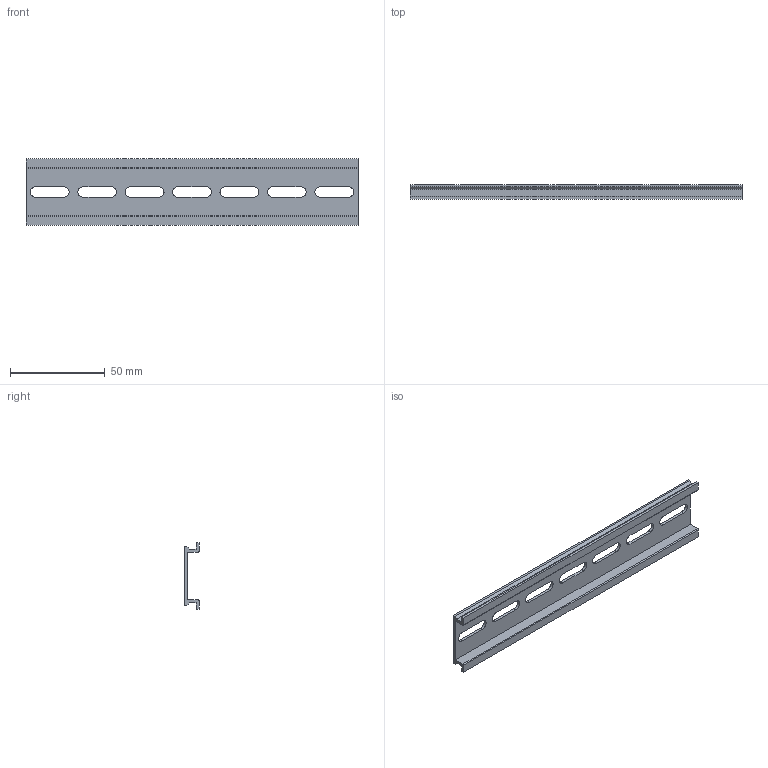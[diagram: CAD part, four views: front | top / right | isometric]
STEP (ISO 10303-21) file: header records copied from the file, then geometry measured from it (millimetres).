
FILE_DESCRIPTION( (''), '2;1');
FILE_NAME ('CVICAD02.15516.DIN-RAIL175_7334.stp','2020-09-01T14:18:05',(''),(''),'spGate 12.6.6','','');
FILE_SCHEMA (('AUTOMOTIVE_DESIGN'));
Length unit declared in the file: millimetre
Bounding box: 175 x 7.5 x 35 mm (x, y, z)
Volume: 12355 mm3; surface area: 16609.5 mm2
Topology: 1 solids, 1 shells, 48 faces, 138 edges, 92 vertices
Faces by surface type: plane 32, cylinder 16
Entity records: 2693 total; most frequent: CARTESIAN_POINT 278, ORIENTED_EDGE 276, DIRECTION 266, COLOUR_RGB 187, PRESENTATION_STYLE_ASSIGNMENT 187, STYLED_ITEM 187, EDGE_CURVE 138, DRAUGHTING_PRE_DEFINED_CURVE_FONT 138
